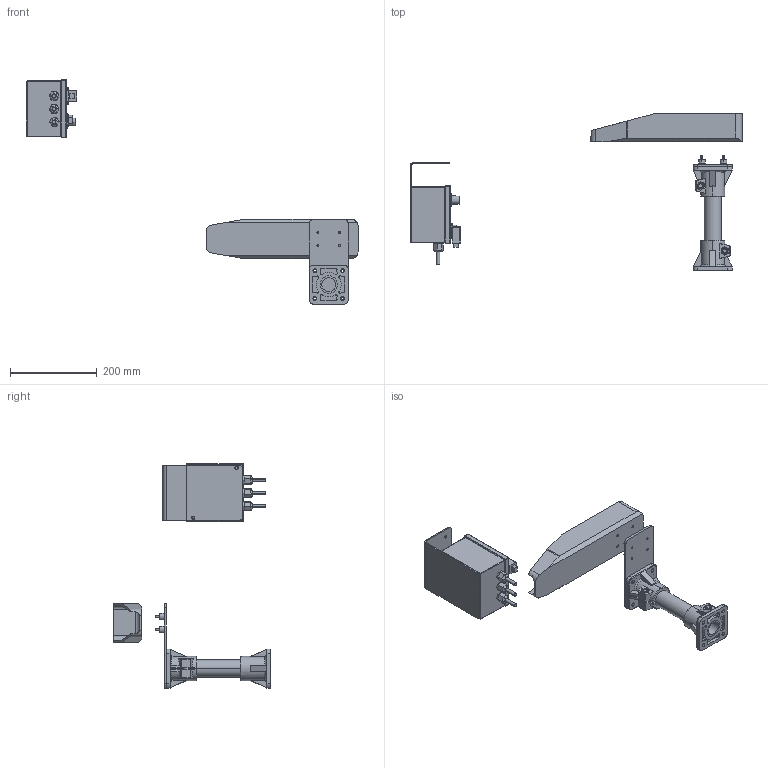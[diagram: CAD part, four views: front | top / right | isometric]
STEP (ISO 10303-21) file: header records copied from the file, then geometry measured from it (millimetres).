
FILE_DESCRIPTION (( 'STEP AP214' ), '1' );
FILE_NAME ('GM000682.STEP', '2021-09-17T07:24:45', ( '' ), ( '' ), 'SwSTEP 2.0', 'SolidWorks 2020', '' );
FILE_SCHEMA (( 'AUTOMOTIVE_DESIGN' ));
Length unit declared in the file: millimetre
Products named in the file (9): CM001005; PD002863; SM000081; GM000682; CE000026; CM000432; PD000067; CM001004; PD002864
Assembly tree (11 placements, depth 2):
  GM000682
    CM000432  x2
    PD002864
    PD002863
    PD000067
    CE000026
    SM000081
    CM001005  x4
  CM001004
Bounding box: 765.03 x 361.72 x 516.48 mm (x, y, z)
Volume: 2550270 mm3; surface area: 496571.7 mm2
Topology: 11 solids, 11 shells, 814 faces, 1997 edges, 1250 vertices
Faces by surface type: cylinder 369, plane 351, torus 40, cone 32, sphere 18, bspline 4
Entity records: 18618 total; most frequent: CARTESIAN_POINT 3320, DIRECTION 2915, ORIENTED_EDGE 2708, EDGE_CURVE 1354, AXIS2_PLACEMENT_3D 1067, VERTEX_POINT 846, VECTOR 781, LINE 781
